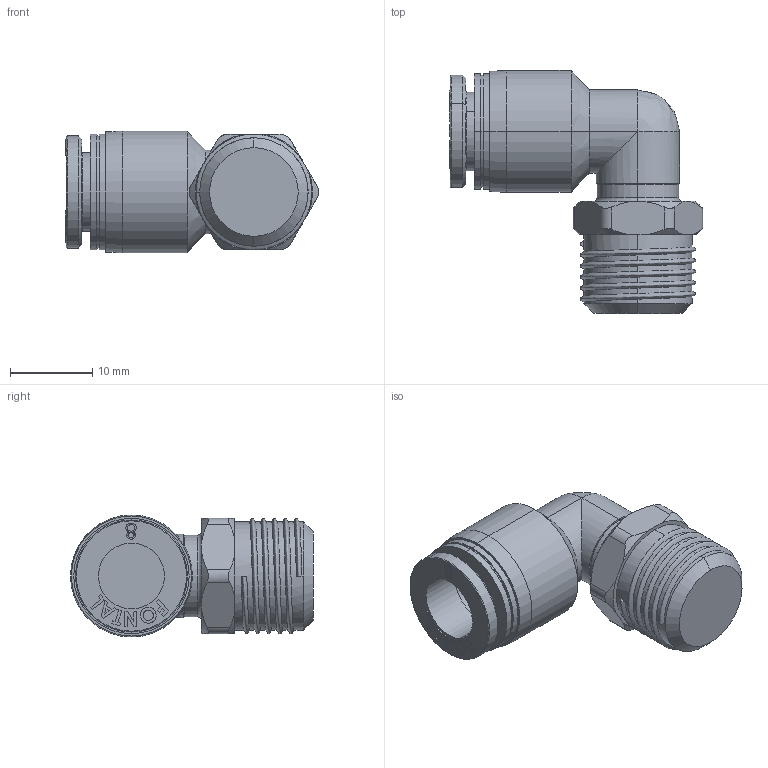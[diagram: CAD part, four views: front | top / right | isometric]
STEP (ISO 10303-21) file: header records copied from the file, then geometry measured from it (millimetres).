
FILE_DESCRIPTION (( 'STEP AP203' ), '1' );
FILE_NAME ('FPL8-02.STEP', '2016-01-14T21:03:55', ( '' ), ( '' ), 'SwSTEP 2.0', 'SolidWorks 2014', '' );
FILE_SCHEMA (( 'CONFIG_CONTROL_DESIGN' ));
Length unit declared in the file: millimetre
Products named in the file (4): FPL8-02-B; FPL8-01-A; FPC8-01-A; FPL8-02
Assembly tree (3 placements, depth 2):
  FPL8-02
    FPL8-01-A
    FPC8-01-A
    FPL8-02-B
Bounding box: 30.73 x 29.5 x 14.8 mm (x, y, z)
Volume: 4675.1 mm3; surface area: 3260.1 mm2
Topology: 3 solids, 3 shells, 176 faces, 436 edges, 282 vertices
Faces by surface type: plane 77, cylinder 41, bspline 30, cone 22, torus 6
Entity records: 8794 total; most frequent: CARTESIAN_POINT 4478, ORIENTED_EDGE 868, DIRECTION 705, EDGE_CURVE 434, VERTEX_POINT 282, AXIS2_PLACEMENT_3D 236, LINE 233, VECTOR 233
